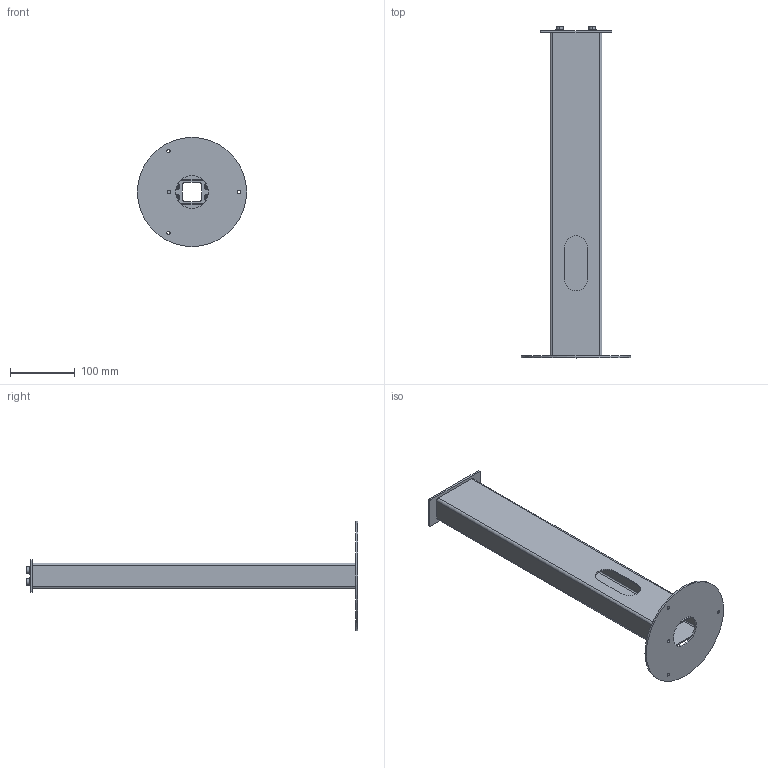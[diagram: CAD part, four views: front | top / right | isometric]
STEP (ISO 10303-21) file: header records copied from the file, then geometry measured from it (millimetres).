
FILE_DESCRIPTION (( 'STEP AP203' ), '1' );
FILE_NAME ('1908.STEP', '2020-07-09T12:26:44', ( '' ), ( '' ), 'SwSTEP 2.0', 'SolidWorks 2019', '' );
FILE_SCHEMA (( 'CONFIG_CONTROL_DESIGN' ));
Length unit declared in the file: millimetre
Products named in the file (8): 1908; Art1908 Profil prost_rs; POD 6,4_rs; Art1908 spaw_rs; Art1908 Blacha dolna_rs_Bl.dolna z otw.; Art1908 Blacha górna_rs_Obr¢bka; GNIAZ_M6x_M6x35; NN Z FAZ･ M6_rs_x3
Assembly tree (16 placements, depth 3):
  1908
    Art1908 spaw_rs
      Art1908 Blacha dolna_rs_Bl.dolna z otw.
      Art1908 Profil prost_rs
      Art1908 Blacha górna_rs_Obr¢bka
    GNIAZ_M6x_M6x35  x4
    NN Z FAZ･ M6_rs_x3  x4
    POD 6,4_rs  x4
Bounding box: 168 x 510.6 x 168 mm (x, y, z)
Volume: 301825.6 mm3; surface area: 282523 mm2
Topology: 15 solids, 15 shells, 322 faces, 704 edges, 420 vertices
Faces by surface type: cylinder 110, plane 108, cone 64, torus 40
Entity records: 5028 total; most frequent: DIRECTION 774, CARTESIAN_POINT 660, ORIENTED_EDGE 624, EDGE_CURVE 312, AXIS2_PLACEMENT_3D 309, VERTEX_POINT 195, EDGE_LOOP 165, LINE 156
